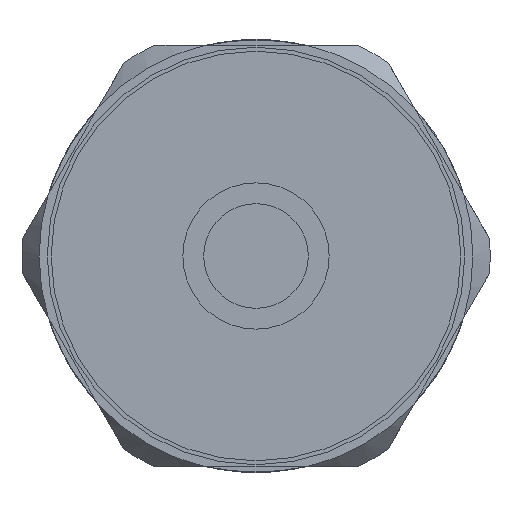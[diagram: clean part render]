
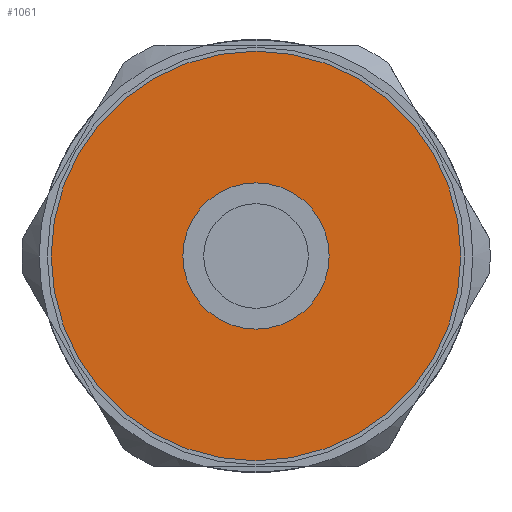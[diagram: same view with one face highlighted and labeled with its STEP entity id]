
A CAD part, left-side view. The second image highlights one B-rep face of the part: STEP entity #1061.
In plain terms, the highlighted planar face has unit normal (-1, 0, 0).
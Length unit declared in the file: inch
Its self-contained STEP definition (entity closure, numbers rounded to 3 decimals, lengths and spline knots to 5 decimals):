
#62=FACE_BOUND('',#188,.T.);
#86=PLANE('',#1175);
#127=FACE_OUTER_BOUND('',#187,.T.);
#187=EDGE_LOOP('',(#820,#821));
#188=EDGE_LOOP('',(#822,#823));
#316=CIRCLE('',#1120,0.14764);
#317=CIRCLE('',#1121,0.14764);
#346=CIRCLE('',#1176,0.41339);
#347=CIRCLE('',#1177,0.41339);
#403=VERTEX_POINT('',#1604);
#404=VERTEX_POINT('',#1605);
#457=VERTEX_POINT('',#1813);
#458=VERTEX_POINT('',#1814);
#513=EDGE_CURVE('',#403,#404,#316,.T.);
#514=EDGE_CURVE('',#404,#403,#317,.T.);
#594=EDGE_CURVE('',#457,#458,#346,.T.);
#595=EDGE_CURVE('',#458,#457,#347,.T.);
#820=ORIENTED_EDGE('',*,*,#594,.T.);
#821=ORIENTED_EDGE('',*,*,#595,.T.);
#822=ORIENTED_EDGE('',*,*,#513,.T.);
#823=ORIENTED_EDGE('',*,*,#514,.T.);
#1061=ADVANCED_FACE('',(#127,#62),#86,.T.);
#1120=AXIS2_PLACEMENT_3D('',#1606,#1275,#1276);
#1121=AXIS2_PLACEMENT_3D('',#1607,#1277,#1278);
#1175=AXIS2_PLACEMENT_3D('',#1812,#1412,#1413);
#1176=AXIS2_PLACEMENT_3D('',#1815,#1414,#1415);
#1177=AXIS2_PLACEMENT_3D('',#1816,#1416,#1417);
#1275=DIRECTION('center_axis',(1.,0.,0.));
#1276=DIRECTION('ref_axis',(0.,0.866,-0.5));
#1277=DIRECTION('center_axis',(1.,0.,0.));
#1278=DIRECTION('ref_axis',(0.,0.866,-0.5));
#1412=DIRECTION('center_axis',(-1.,0.,0.));
#1413=DIRECTION('ref_axis',(0.,0.866,-0.5));
#1414=DIRECTION('center_axis',(-1.,0.,0.));
#1415=DIRECTION('ref_axis',(0.,0.866,-0.5));
#1416=DIRECTION('center_axis',(-1.,0.,0.));
#1417=DIRECTION('ref_axis',(0.,0.866,-0.5));
#1604=CARTESIAN_POINT('',(-2.25408,0.22916,-0.41816));
#1605=CARTESIAN_POINT('',(-2.25408,-0.02656,-0.27052));
#1606=CARTESIAN_POINT('Origin',(-2.25408,0.1013,-0.34434));
#1607=CARTESIAN_POINT('Origin',(-2.25408,0.1013,-0.34434));
#1812=CARTESIAN_POINT('Origin',(-2.25408,0.1013,-0.34434));
#1813=CARTESIAN_POINT('',(-2.25408,0.4593,-0.55103));
#1814=CARTESIAN_POINT('',(-2.25408,-0.2567,-0.13765));
#1815=CARTESIAN_POINT('Origin',(-2.25408,0.1013,-0.34434));
#1816=CARTESIAN_POINT('Origin',(-2.25408,0.1013,-0.34434));
